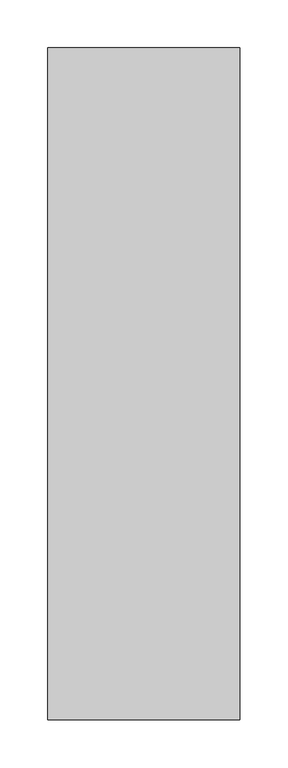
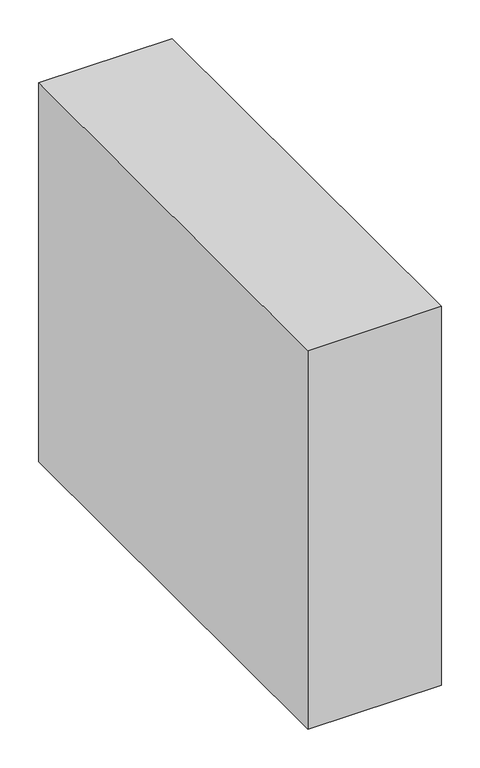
"""IFC4 building model written with IfcOpenShell, lengths in millimetres: flow terminal geometry, APSA-I-HI-Boca de incendio-PET : APSA_I_HI_Boca de incendio-PET."""

from ifc_helpers import new_model, si_unit, origin, origin_with_axes, place, context, project, spatial, polyline, outline, extrude, source, transform, mapped, element, save


def flow_terminal_a7845b32(model_context):
    return source(origin(), model_context, "Body", "SweptSolid", [
        extrude(outline(polyline([(100.0, 350.0), (100.0, -350.0), (-100.0, -350.0), (-100.0, 350.0), (100.0, 350.0)])), origin_with_axes(), (0.0, 0.0, 1.0), 600.0),
    ])


if __name__ == "__main__":
    model = new_model("IFC4")
    model_context = context("Model", 3, world=origin())
    ifc_project = project(units=[si_unit("LENGTHUNIT", "METRE", prefix="MILLI")], contexts=[model_context])
    site = spatial("IfcSite", under=ifc_project)
    building = spatial("IfcBuilding", under=site)
    placement = place(None, origin())
    flow_terminal_shape = flow_terminal_a7845b32(model_context)
    element("IfcFlowTerminal", 1, ObjectType="APSA-I-HI-Boca de incendio-PET : APSA_I_HI_Boca de incendio-PET", at=placement, inside=building, context=model_context, shape_type="MappedRepresentation", body=[
        mapped(flow_terminal_shape, transform((0.0, 0.0, 0.0), x_axis=(1.0, 0.0, 0.0), y_axis=(0.0, 1.0, 0.0), z_axis=(0.0, 0.0, 1.0))),
    ])
    save(model, "model.ifc")
